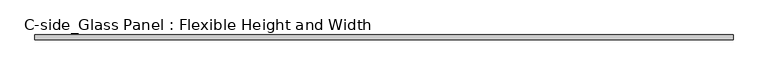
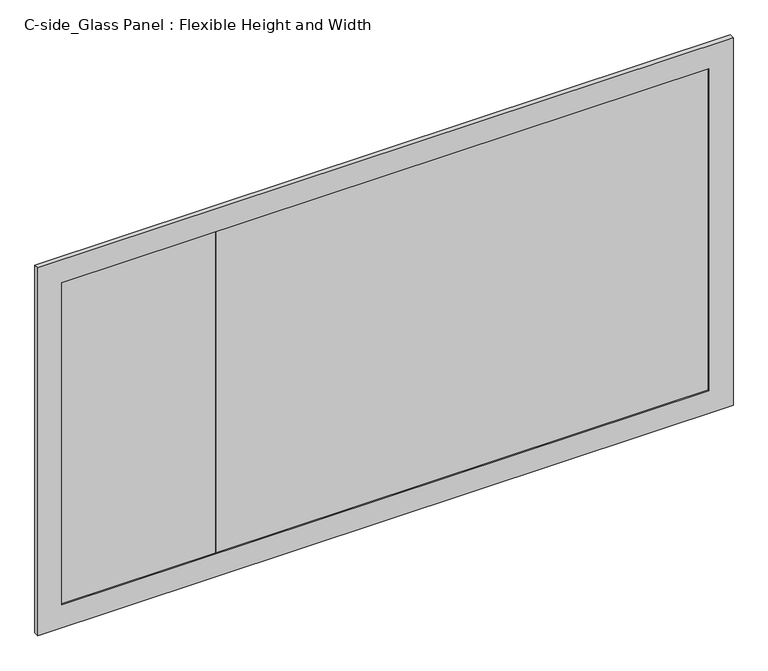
"""IFC4 building model written with IfcOpenShell, lengths in millimetres: proxy geometry, C-side_Glass Panel : Flexible Height and Width."""

from ifc_helpers import new_model, si_unit, frame, origin, place, context, project, spatial, polyline, outline, extrude, source, transform, mapped, element, save


def c_side_glass_panel_flexible_height_and_width_e43f4e54(model_context):
    return source(origin(), model_context, "Body", "SweptSolid", [
        extrude(outline(polyline([(1390.0, 13.0), (370.0, 13.0), (370.0, 17.0), (1390.0, 17.0), (1390.0, 13.0)])), frame((0.0, 0.0, 50.0), z_axis=(0.0, 0.0, 1.0), x_axis=(1.0, 0.0, 0.0)), (0.0, 0.0, 1.0), 705.0),
        extrude(outline(polyline([(370.0, 13.0), (50.0, 13.0), (50.0, 17.0), (370.0, 17.0), (370.0, 13.0)])), frame((0.0, 0.0, 50.0), z_axis=(0.0, 0.0, 1.0), x_axis=(1.0, 0.0, 0.0)), (0.0, 0.0, 1.0), 705.0),
        extrude(outline(polyline([(805.0, 0.0), (0.0, 0.0), (0.0, 1440.0), (805.0, 1440.0), (805.0, 0.0)]), holes=[polyline([(755.0, 50.0), (755.0, 1390.0), (50.0, 1390.0), (50.0, 50.0), (755.0, 50.0)])]), frame((0.0, 10.0, 0.0), z_axis=(0.0, 1.0, 0.0), x_axis=(0.0, 0.0, 1.0)), (0.0, 0.0, 1.0), 10.0),
    ])


if __name__ == "__main__":
    model = new_model("IFC4")
    model_context = context("Model", 3, world=origin())
    ifc_project = project(units=[si_unit("LENGTHUNIT", "METRE", prefix="MILLI")], contexts=[model_context])
    site = spatial("IfcSite", under=ifc_project)
    building = spatial("IfcBuilding", under=site)
    placement = place(None, origin())
    c_side_glass_panel_flexible_height_and_width_shape = c_side_glass_panel_flexible_height_and_width_e43f4e54(model_context)
    element("IfcBuildingElementProxy", 1, Name="C-side_Glass Panel : Flexible Height and Width", ObjectType="C-side_Glass Panel : Flexible Height and Width", at=placement, inside=building, context=model_context, shape_type="MappedRepresentation", body=[
        mapped(c_side_glass_panel_flexible_height_and_width_shape, transform((0.0, 0.0, 0.0), x_axis=(1.0, 0.0, 0.0), y_axis=(0.0, 1.0, 0.0), z_axis=(0.0, 0.0, 1.0))),
    ])
    save(model, "model.ifc")
